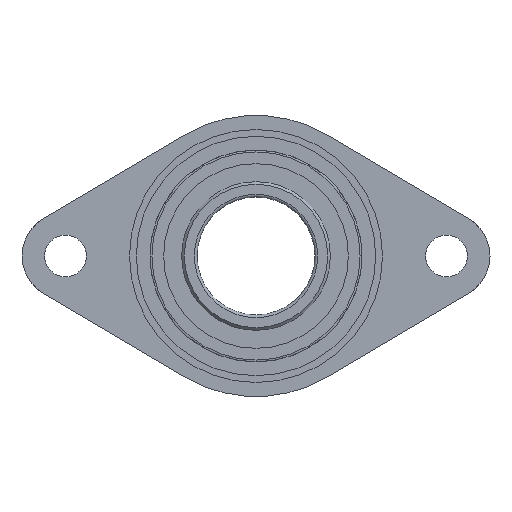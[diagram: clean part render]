
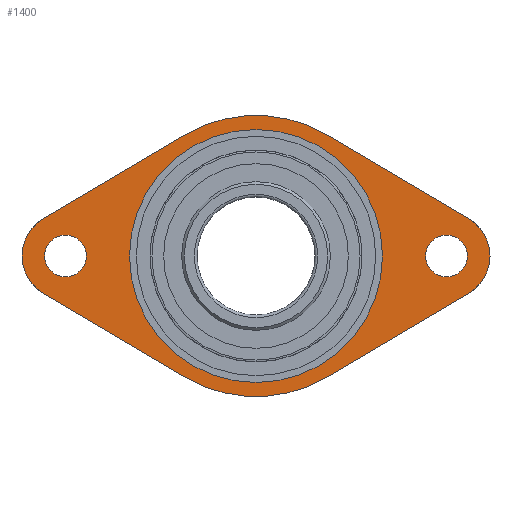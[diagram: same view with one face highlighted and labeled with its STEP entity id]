
A CAD part, left-side view. The second image highlights one B-rep face of the part: STEP entity #1400.
In plain terms, the highlighted planar face has unit normal (-1, 0, 0).
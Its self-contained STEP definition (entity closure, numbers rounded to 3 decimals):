
#30 = VERTEX_POINT ( 'NONE', #216 ) ;
#66 = VERTEX_POINT ( 'NONE', #292 ) ;
#81 = VERTEX_POINT ( 'NONE', #318 ) ;
#216 = CARTESIAN_POINT ( 'NONE',  ( -30., 105., -11.5 ) ) ;
#235 = CARTESIAN_POINT ( 'NONE',  ( -30., -117.229, 20.651 ) ) ;
#292 = CARTESIAN_POINT ( 'NONE',  ( -30., -105., -11.5 ) ) ;
#318 = CARTESIAN_POINT ( 'NONE',  ( -30., 0., -69.75 ) ) ;
#434 = CIRCLE ( 'NONE', #924, 11.5 ) ;
#671 = EDGE_CURVE ( 'E350', #2491, #2507, #1085, .T. ) ;
#740 = DIRECTION ( 'NONE',  ( 1., 0., 0. ) ) ;
#749 = CARTESIAN_POINT ( 'NONE',  ( -30., 0., 0. ) ) ;
#771 = DIRECTION ( 'NONE',  ( 0., 0., -1. ) ) ;
#851 = VECTOR ( 'NONE', #2950, 1000. ) ;
#857 = LINE ( 'NONE', #2754, #851 ) ;
#859 = VECTOR ( 'NONE', #2515, 1000. ) ;
#861 = LINE ( 'NONE', #235, #859 ) ;
#864 = CIRCLE ( 'NONE', #1597, 24. ) ;
#889 = CIRCLE ( 'NONE', #1676, 77.5 ) ;
#911 = LINE ( 'NONE', #1844, #917 ) ;
#916 = CARTESIAN_POINT ( 'NONE',  ( -30., 117.229, 20.651 ) ) ;
#917 = VECTOR ( 'NONE', #1908, 1000. ) ;
#923 = CIRCLE ( 'NONE', #1708, 11.5 ) ;
#924 = AXIS2_PLACEMENT_3D ( 'NONE', #1149, #1148, #1143 ) ;
#926 = CIRCLE ( 'NONE', #1734, 24. ) ;
#930 = FACE_BOUND ( 'NONE', #2331, .T. ) ;
#936 = FACE_BOUND ( 'NONE', #2664, .T. ) ;
#952 = FACE_OUTER_BOUND ( 'NONE', #2656, .T. ) ;
#955 = VECTOR ( 'NONE', #988, 1000. ) ;
#956 = FACE_BOUND ( 'NONE', #1647, .T. ) ;
#958 = LINE ( 'NONE', #916, #955 ) ;
#982 = CIRCLE ( 'NONE', #1871, 69.75 ) ;
#988 = DIRECTION ( 'NONE',  ( 0., -0.86, 0.51 ) ) ;
#1029 = CARTESIAN_POINT ( 'NONE',  ( -30., -117.229, 20.651 ) ) ;
#1085 = CIRCLE ( 'NONE', #2221, 77.5 ) ;
#1098 = PLANE ( 'NONE',  #1738 ) ;
#1143 = DIRECTION ( 'NONE',  ( 0., 0., -1. ) ) ;
#1148 = DIRECTION ( 'NONE',  ( 1., 0., 0. ) ) ;
#1149 = CARTESIAN_POINT ( 'NONE',  ( -30., 105., 0. ) ) ;
#1167 = EDGE_CURVE ( 'NONE', #81, #81, #982, .T. ) ;
#1295 = EDGE_CURVE ( 'E193', #1687, #1579, #958, .T. ) ;
#1366 = VERTEX_POINT ( 'NONE', #1029 ) ;
#1400 = ADVANCED_FACE ( 'E454', ( #956, #930, #936, #952 ), #1098, .F. ) ;
#1429 = EDGE_CURVE ( 'E382', #1866, #1687, #926, .T. ) ;
#1451 = EDGE_CURVE ( 'E376', #1866, #2507, #911, .T. ) ;
#1494 = DIRECTION ( 'NONE',  ( 0., 0., -1. ) ) ;
#1540 = EDGE_CURVE ( 'NONE', #66, #66, #923, .T. ) ;
#1579 = VERTEX_POINT ( 'NONE', #2032 ) ;
#1597 = AXIS2_PLACEMENT_3D ( 'NONE', #2788, #2791, #2805 ) ;
#1647 = EDGE_LOOP ( 'NONE', ( #2885 ) ) ;
#1652 = EDGE_CURVE ( 'E214', #1579, #1887, #889, .T. ) ;
#1676 = AXIS2_PLACEMENT_3D ( 'NONE', #2734, #2723, #2672 ) ;
#1687 = VERTEX_POINT ( 'NONE', #2767 ) ;
#1708 = AXIS2_PLACEMENT_3D ( 'NONE', #2072, #2086, #1801 ) ;
#1734 = AXIS2_PLACEMENT_3D ( 'NONE', #1867, #1885, #1876 ) ;
#1738 = AXIS2_PLACEMENT_3D ( 'NONE', #2234, #1940, #1494 ) ;
#1801 = DIRECTION ( 'NONE',  ( 0., 0., -1. ) ) ;
#1840 = EDGE_CURVE ( 'E240', #1366, #1887, #861, .T. ) ;
#1844 = CARTESIAN_POINT ( 'NONE',  ( -30., 117.229, -20.651 ) ) ;
#1848 = EDGE_CURVE ( 'E246', #1366, #2399, #864, .T. ) ;
#1852 = EDGE_CURVE ( 'E329', #2399, #2491, #857, .T. ) ;
#1864 = CARTESIAN_POINT ( 'NONE',  ( -30., 39.488, -66.685 ) ) ;
#1866 = VERTEX_POINT ( 'NONE', #2771 ) ;
#1867 = CARTESIAN_POINT ( 'NONE',  ( -30., 105., 0. ) ) ;
#1871 = AXIS2_PLACEMENT_3D ( 'NONE', #749, #740, #771 ) ;
#1876 = DIRECTION ( 'NONE',  ( 0., 0., -1. ) ) ;
#1885 = DIRECTION ( 'NONE',  ( 1., 0., 0. ) ) ;
#1887 = VERTEX_POINT ( 'NONE', #2932 ) ;
#1899 = CARTESIAN_POINT ( 'NONE',  ( -30., -39.488, -66.685 ) ) ;
#1908 = DIRECTION ( 'NONE',  ( 0., -0.86, -0.51 ) ) ;
#1940 = DIRECTION ( 'NONE',  ( 1., 0., 0. ) ) ;
#2032 = CARTESIAN_POINT ( 'NONE',  ( -30., 39.488, 66.685 ) ) ;
#2072 = CARTESIAN_POINT ( 'NONE',  ( -30., -105., 0. ) ) ;
#2086 = DIRECTION ( 'NONE',  ( 1., 0., 0. ) ) ;
#2200 = CARTESIAN_POINT ( 'NONE',  ( -30., 0., 0. ) ) ;
#2206 = DIRECTION ( 'NONE',  ( 1., 0., 0. ) ) ;
#2207 = DIRECTION ( 'NONE',  ( 0., 0., -1. ) ) ;
#2221 = AXIS2_PLACEMENT_3D ( 'NONE', #2200, #2206, #2207 ) ;
#2234 = CARTESIAN_POINT ( 'NONE',  ( -30., 0., 0. ) ) ;
#2331 = EDGE_LOOP ( 'NONE', ( #2882 ) ) ;
#2377 = CARTESIAN_POINT ( 'NONE',  ( -30., -117.229, -20.651 ) ) ;
#2399 = VERTEX_POINT ( 'NONE', #2377 ) ;
#2491 = VERTEX_POINT ( 'NONE', #1899 ) ;
#2507 = VERTEX_POINT ( 'NONE', #1864 ) ;
#2515 = DIRECTION ( 'NONE',  ( 0., 0.86, 0.51 ) ) ;
#2656 = EDGE_LOOP ( 'NONE', ( #2887, #2890, #2900, #2914, #2897, #2896, #2891, #2661 ) ) ;
#2661 = ORIENTED_EDGE ( 'NONE', *, *, #671, .F. ) ;
#2664 = EDGE_LOOP ( 'NONE', ( #2894 ) ) ;
#2672 = DIRECTION ( 'NONE',  ( 0., 0., -1. ) ) ;
#2723 = DIRECTION ( 'NONE',  ( 1., 0., 0. ) ) ;
#2734 = CARTESIAN_POINT ( 'NONE',  ( -30., 0., 0. ) ) ;
#2754 = CARTESIAN_POINT ( 'NONE',  ( -30., -117.229, -20.651 ) ) ;
#2767 = CARTESIAN_POINT ( 'NONE',  ( -30., 117.229, 20.651 ) ) ;
#2771 = CARTESIAN_POINT ( 'NONE',  ( -30., 117.229, -20.651 ) ) ;
#2788 = CARTESIAN_POINT ( 'NONE',  ( -30., -105., 0. ) ) ;
#2791 = DIRECTION ( 'NONE',  ( 1., 0., 0. ) ) ;
#2805 = DIRECTION ( 'NONE',  ( 0., 0., -1. ) ) ;
#2876 = EDGE_CURVE ( 'NONE', #30, #30, #434, .T. ) ;
#2882 = ORIENTED_EDGE ( 'NONE', *, *, #1540, .T. ) ;
#2885 = ORIENTED_EDGE ( 'NONE', *, *, #1167, .T. ) ;
#2887 = ORIENTED_EDGE ( 'NONE', *, *, #1852, .F. ) ;
#2890 = ORIENTED_EDGE ( 'NONE', *, *, #1848, .F. ) ;
#2891 = ORIENTED_EDGE ( 'NONE', *, *, #1451, .T. ) ;
#2894 = ORIENTED_EDGE ( 'NONE', *, *, #2876, .T. ) ;
#2896 = ORIENTED_EDGE ( 'NONE', *, *, #1429, .F. ) ;
#2897 = ORIENTED_EDGE ( 'NONE', *, *, #1295, .F. ) ;
#2900 = ORIENTED_EDGE ( 'NONE', *, *, #1840, .T. ) ;
#2914 = ORIENTED_EDGE ( 'NONE', *, *, #1652, .F. ) ;
#2932 = CARTESIAN_POINT ( 'NONE',  ( -30., -39.488, 66.685 ) ) ;
#2950 = DIRECTION ( 'NONE',  ( 0., 0.86, -0.51 ) ) ;
